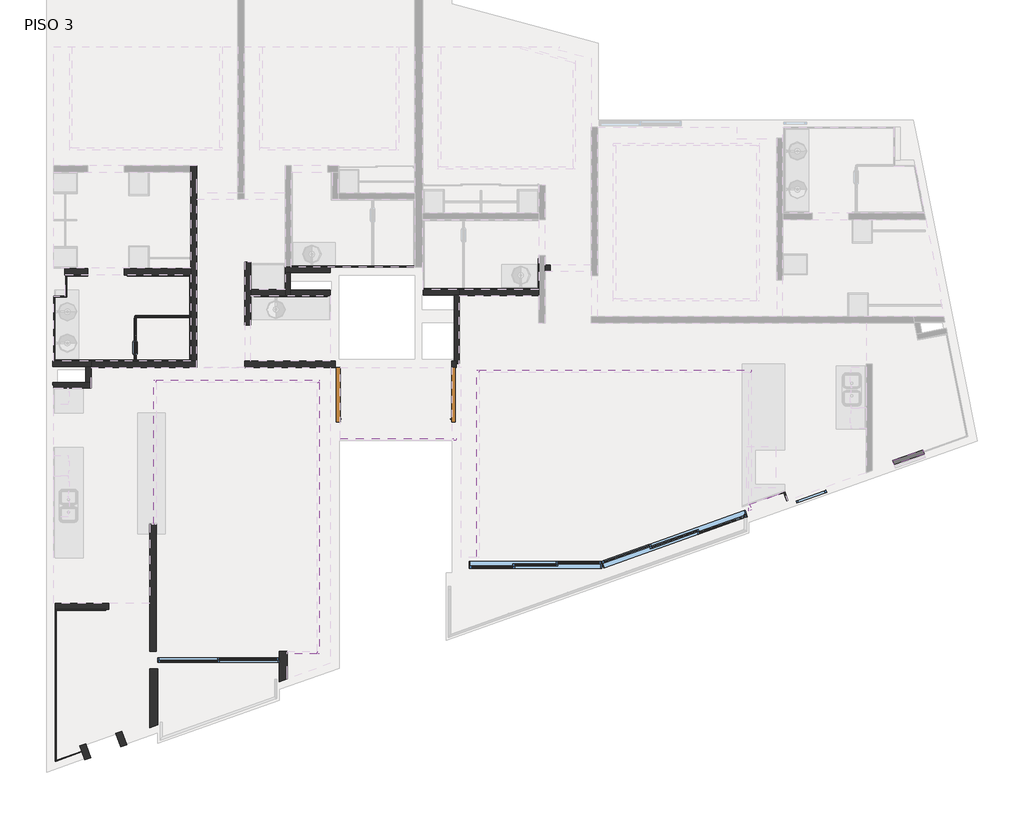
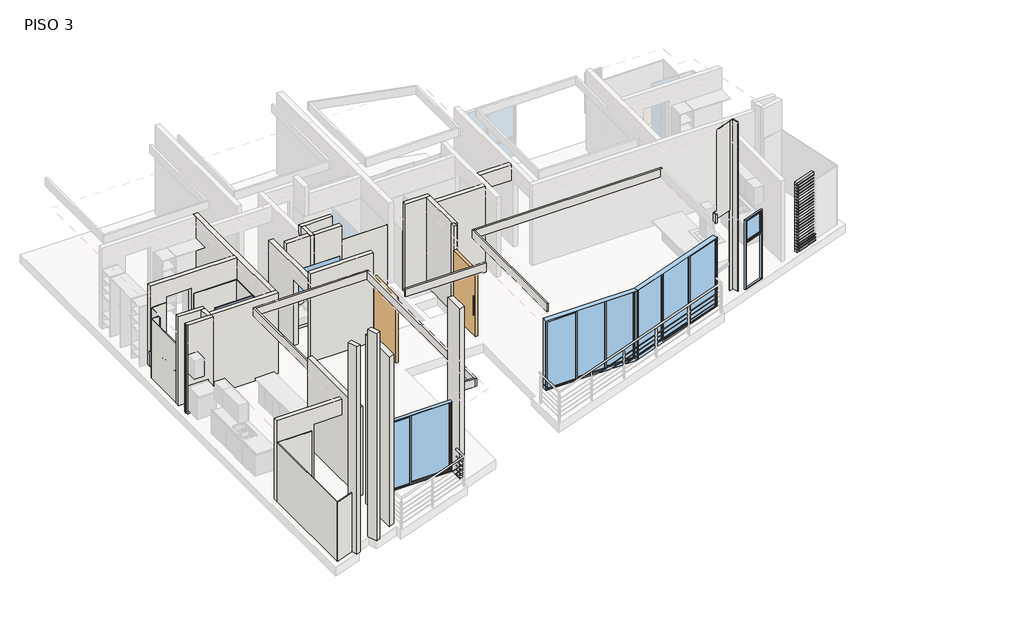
# One storey, part 1 of 3: 48 walls, 24 plates, 7 windows, 3 members, 2 doors.
"""IFC4 building model written with IfcOpenShell, lengths in millimetres."""

from ifc_helpers import new_model, si_unit, frame, origin, place, context, project, spatial, polyline, outline, extrude, faceted_brep, transform, mapped, element, save
from components import door_120_x_220_cm_1a80d65d, door_120_x_220_cm_c73bc2d5, montante_rectangular_montante_rectangular_1_5x5_1b1c74e0, plate_91745229, window_25a9a49d, window_76b8c877, window_1067b7f7, window_0b8e7a57, window_84fe70d5, window_a27440a6, window_0328c900

model = new_model("IFC4")

# Units and contexts
model_context = context("Model", 3, world=origin())
ifc_project = project(units=[si_unit("LENGTHUNIT", "METRE", prefix="MILLI")], contexts=[model_context])

# Site, building, storey
site = spatial("IfcSite", under=ifc_project)
building = spatial("IfcBuilding", under=site)
storey = spatial("IfcBuildingStorey", under=building, Name="PISO 3", Elevation=9000.0)

# Doors
placement = place(None, origin())
door_120_x_220_cm_shape = door_120_x_220_cm_1a80d65d(model_context)
element("IfcDoor", 1, ObjectType="PUERTA ACCESO_PIVOT : 120 x 220 cm", at=placement, inside=storey, context=model_context, shape_type="MappedRepresentation", body=[
    mapped(door_120_x_220_cm_shape, transform((40339.5059119, 28707.1436004, 9000.0), x_axis=(0.0, 1.0, 0.0), y_axis=(-1.0, 0.0, 0.0), z_axis=(0.0, 0.0, 1.0))),
])
door_120_x_220_cm_2_shape = door_120_x_220_cm_c73bc2d5(model_context)
element("IfcDoor", 2, ObjectType="PUERTA ACCESO_PIVOT : 120 x 220 cm", at=placement, inside=storey, context=model_context, shape_type="MappedRepresentation", body=[
    mapped(door_120_x_220_cm_2_shape, transform((43004.5059119, 28707.1436004, 9000.0), x_axis=(0.0, 1.0, 0.0), y_axis=(-1.0, 0.0, 0.0), z_axis=(0.0, 0.0, 1.0))),
])

# Members
montante_rectangular_montante_rectangular_1_5x5_shape = montante_rectangular_montante_rectangular_1_5x5_1b1c74e0(model_context)
element("IfcMember", 3, ObjectType="Montante rectangular : Montante rectangular - 1.5x5", at=placement, inside=storey, context=model_context, shape_type="MappedRepresentation", body=[
    mapped(montante_rectangular_montante_rectangular_1_5x5_shape, transform((53319.7231991, 27770.5085935, 9091.0416667), x_axis=(0.0, 0.0, 1.0), y_axis=(0.3356769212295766, -0.9419771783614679, 0.0), z_axis=(0.9419771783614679, 0.3356769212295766, 0.0))),
])
element("IfcMember", 4, ObjectType="Montante rectangular : Montante rectangular - 1.5x5", at=placement, inside=storey, context=model_context, shape_type="MappedRepresentation", body=[
    mapped(montante_rectangular_montante_rectangular_1_5x5_shape, transform((53319.7231991, 27770.5085935, 9189.5833333), x_axis=(0.0, 0.0, 1.0), y_axis=(0.3356769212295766, -0.9419771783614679, 0.0), z_axis=(0.9419771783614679, 0.3356769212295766, 0.0))),
])
element("IfcMember", 5, ObjectType="Montante rectangular : Montante rectangular - 1.5x5", at=placement, inside=storey, context=model_context, shape_type="MappedRepresentation", body=[
    mapped(montante_rectangular_montante_rectangular_1_5x5_shape, transform((53319.7231991, 27770.5085935, 9288.125), x_axis=(0.0, 0.0, 1.0), y_axis=(0.3356769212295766, -0.9419771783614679, 0.0), z_axis=(0.9419771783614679, 0.3356769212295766, 0.0))),
])

# Plates
plate_shape = plate_91745229(model_context)
element("IfcPlate", 6, ObjectType="Panel del sistema vacío : Vacío", at=placement, inside=storey, context=model_context, shape_type="MappedRepresentation", body=[
    mapped(plate_shape, transform((52990.0311866, 27653.021671, 9000.0), x_axis=(0.9419771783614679, 0.3356769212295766, 0.0), y_axis=(-0.3356769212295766, 0.9419771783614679, 0.0), z_axis=(0.0, 0.0, 1.0))),
])
element("IfcPlate", 7, ObjectType="Panel del sistema vacío : Vacío", at=placement, inside=storey, context=model_context, shape_type="MappedRepresentation", body=[
    mapped(plate_shape, transform((52990.0311866, 27653.021671, 9098.5416667), x_axis=(0.9419771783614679, 0.3356769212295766, 0.0), y_axis=(-0.3356769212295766, 0.9419771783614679, 0.0), z_axis=(0.0, 0.0, 1.0))),
])
element("IfcPlate", 8, ObjectType="Panel del sistema vacío : Vacío", at=placement, inside=storey, context=model_context, shape_type="MappedRepresentation", body=[
    mapped(plate_shape, transform((52990.0311866, 27653.021671, 9197.0833333), x_axis=(0.9419771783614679, 0.3356769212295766, 0.0), y_axis=(-0.3356769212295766, 0.9419771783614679, 0.0), z_axis=(0.0, 0.0, 1.0))),
])
element("IfcPlate", 9, ObjectType="Panel del sistema vacío : Vacío", at=placement, inside=storey, context=model_context, shape_type="MappedRepresentation", body=[
    mapped(plate_shape, transform((52990.0311866, 27653.021671, 9295.625), x_axis=(0.9419771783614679, 0.3356769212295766, 0.0), y_axis=(-0.3356769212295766, 0.9419771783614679, 0.0), z_axis=(0.0, 0.0, 1.0))),
])
element("IfcPlate", 10, ObjectType="Panel del sistema vacío : Vacío", at=placement, inside=storey, context=model_context, shape_type="MappedRepresentation", body=[
    mapped(plate_shape, transform((52990.0311866, 27653.021671, 9394.1666667), x_axis=(0.9419771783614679, 0.3356769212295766, 0.0), y_axis=(-0.3356769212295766, 0.9419771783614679, 0.0), z_axis=(0.0, 0.0, 1.0))),
])
element("IfcPlate", 11, ObjectType="Panel del sistema vacío : Vacío", at=placement, inside=storey, context=model_context, shape_type="MappedRepresentation", body=[
    mapped(plate_shape, transform((52990.0311866, 27653.021671, 9492.7083333), x_axis=(0.9419771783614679, 0.3356769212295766, 0.0), y_axis=(-0.3356769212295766, 0.9419771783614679, 0.0), z_axis=(0.0, 0.0, 1.0))),
])
element("IfcPlate", 12, ObjectType="Panel del sistema vacío : Vacío", at=placement, inside=storey, context=model_context, shape_type="MappedRepresentation", body=[
    mapped(plate_shape, transform((52990.0311866, 27653.021671, 9591.25), x_axis=(0.9419771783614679, 0.3356769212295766, 0.0), y_axis=(-0.3356769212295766, 0.9419771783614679, 0.0), z_axis=(0.0, 0.0, 1.0))),
])
element("IfcPlate", 13, ObjectType="Panel del sistema vacío : Vacío", at=placement, inside=storey, context=model_context, shape_type="MappedRepresentation", body=[
    mapped(plate_shape, transform((52990.0311866, 27653.021671, 9689.7916667), x_axis=(0.9419771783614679, 0.3356769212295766, 0.0), y_axis=(-0.3356769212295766, 0.9419771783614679, 0.0), z_axis=(0.0, 0.0, 1.0))),
])
element("IfcPlate", 14, ObjectType="Panel del sistema vacío : Vacío", at=placement, inside=storey, context=model_context, shape_type="MappedRepresentation", body=[
    mapped(plate_shape, transform((52990.0311866, 27653.021671, 9788.3333333), x_axis=(0.9419771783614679, 0.3356769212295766, 0.0), y_axis=(-0.3356769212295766, 0.9419771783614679, 0.0), z_axis=(0.0, 0.0, 1.0))),
])
element("IfcPlate", 15, ObjectType="Panel del sistema vacío : Vacío", at=placement, inside=storey, context=model_context, shape_type="MappedRepresentation", body=[
    mapped(plate_shape, transform((52990.0311866, 27653.021671, 9886.875), x_axis=(0.9419771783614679, 0.3356769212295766, 0.0), y_axis=(-0.3356769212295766, 0.9419771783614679, 0.0), z_axis=(0.0, 0.0, 1.0))),
])
element("IfcPlate", 16, ObjectType="Panel del sistema vacío : Vacío", at=placement, inside=storey, context=model_context, shape_type="MappedRepresentation", body=[
    mapped(plate_shape, transform((52990.0311866, 27653.021671, 9985.4166667), x_axis=(0.9419771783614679, 0.3356769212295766, 0.0), y_axis=(-0.3356769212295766, 0.9419771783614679, 0.0), z_axis=(0.0, 0.0, 1.0))),
])
element("IfcPlate", 17, ObjectType="Panel del sistema vacío : Vacío", at=placement, inside=storey, context=model_context, shape_type="MappedRepresentation", body=[
    mapped(plate_shape, transform((52990.0311866, 27653.021671, 10083.9583333), x_axis=(0.9419771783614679, 0.3356769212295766, 0.0), y_axis=(-0.3356769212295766, 0.9419771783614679, 0.0), z_axis=(0.0, 0.0, 1.0))),
])
element("IfcPlate", 18, ObjectType="Panel del sistema vacío : Vacío", at=placement, inside=storey, context=model_context, shape_type="MappedRepresentation", body=[
    mapped(plate_shape, transform((52990.0311866, 27653.021671, 10182.5), x_axis=(0.9419771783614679, 0.3356769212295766, 0.0), y_axis=(-0.3356769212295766, 0.9419771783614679, 0.0), z_axis=(0.0, 0.0, 1.0))),
])
element("IfcPlate", 19, ObjectType="Panel del sistema vacío : Vacío", at=placement, inside=storey, context=model_context, shape_type="MappedRepresentation", body=[
    mapped(plate_shape, transform((52990.0311866, 27653.021671, 10281.0416667), x_axis=(0.9419771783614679, 0.3356769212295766, 0.0), y_axis=(-0.3356769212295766, 0.9419771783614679, 0.0), z_axis=(0.0, 0.0, 1.0))),
])
element("IfcPlate", 20, ObjectType="Panel del sistema vacío : Vacío", at=placement, inside=storey, context=model_context, shape_type="MappedRepresentation", body=[
    mapped(plate_shape, transform((52990.0311866, 27653.021671, 10379.5833333), x_axis=(0.9419771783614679, 0.3356769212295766, 0.0), y_axis=(-0.3356769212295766, 0.9419771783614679, 0.0), z_axis=(0.0, 0.0, 1.0))),
])
element("IfcPlate", 21, ObjectType="Panel del sistema vacío : Vacío", at=placement, inside=storey, context=model_context, shape_type="MappedRepresentation", body=[
    mapped(plate_shape, transform((52990.0311866, 27653.021671, 10478.125), x_axis=(0.9419771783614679, 0.3356769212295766, 0.0), y_axis=(-0.3356769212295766, 0.9419771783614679, 0.0), z_axis=(0.0, 0.0, 1.0))),
])
element("IfcPlate", 22, ObjectType="Panel del sistema vacío : Vacío", at=placement, inside=storey, context=model_context, shape_type="MappedRepresentation", body=[
    mapped(plate_shape, transform((52990.0311866, 27653.021671, 10576.6666667), x_axis=(0.9419771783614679, 0.3356769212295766, 0.0), y_axis=(-0.3356769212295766, 0.9419771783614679, 0.0), z_axis=(0.0, 0.0, 1.0))),
])
element("IfcPlate", 23, ObjectType="Panel del sistema vacío : Vacío", at=placement, inside=storey, context=model_context, shape_type="MappedRepresentation", body=[
    mapped(plate_shape, transform((52990.0311866, 27653.021671, 10675.2083333), x_axis=(0.9419771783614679, 0.3356769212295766, 0.0), y_axis=(-0.3356769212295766, 0.9419771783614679, 0.0), z_axis=(0.0, 0.0, 1.0))),
])
element("IfcPlate", 24, ObjectType="Panel del sistema vacío : Vacío", at=placement, inside=storey, context=model_context, shape_type="MappedRepresentation", body=[
    mapped(plate_shape, transform((52990.0311866, 27653.021671, 10773.75), x_axis=(0.9419771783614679, 0.3356769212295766, 0.0), y_axis=(-0.3356769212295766, 0.9419771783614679, 0.0), z_axis=(0.0, 0.0, 1.0))),
])
element("IfcPlate", 25, ObjectType="Panel del sistema vacío : Vacío", at=placement, inside=storey, context=model_context, shape_type="MappedRepresentation", body=[
    mapped(plate_shape, transform((52990.0311866, 27653.021671, 10872.2916667), x_axis=(0.9419771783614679, 0.3356769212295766, 0.0), y_axis=(-0.3356769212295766, 0.9419771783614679, 0.0), z_axis=(0.0, 0.0, 1.0))),
])
element("IfcPlate", 26, ObjectType="Panel del sistema vacío : Vacío", at=placement, inside=storey, context=model_context, shape_type="MappedRepresentation", body=[
    mapped(plate_shape, transform((52990.0311866, 27653.021671, 10970.8333333), x_axis=(0.9419771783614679, 0.3356769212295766, 0.0), y_axis=(-0.3356769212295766, 0.9419771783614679, 0.0), z_axis=(0.0, 0.0, 1.0))),
])
element("IfcPlate", 27, ObjectType="Panel del sistema vacío : Vacío", at=placement, inside=storey, context=model_context, shape_type="MappedRepresentation", body=[
    mapped(plate_shape, transform((52990.0311866, 27653.021671, 11069.375), x_axis=(0.9419771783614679, 0.3356769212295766, 0.0), y_axis=(-0.3356769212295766, 0.9419771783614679, 0.0), z_axis=(0.0, 0.0, 1.0))),
])
element("IfcPlate", 28, ObjectType="Panel del sistema vacío : Vacío", at=placement, inside=storey, context=model_context, shape_type="MappedRepresentation", body=[
    mapped(plate_shape, transform((52990.0311866, 27653.021671, 11167.9166667), x_axis=(0.9419771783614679, 0.3356769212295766, 0.0), y_axis=(-0.3356769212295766, 0.9419771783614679, 0.0), z_axis=(0.0, 0.0, 1.0))),
])
element("IfcPlate", 29, ObjectType="Panel del sistema vacío : Vacío", at=placement, inside=storey, context=model_context, shape_type="MappedRepresentation", body=[
    mapped(plate_shape, transform((52990.0311866, 27653.021671, 11266.4583333), x_axis=(0.9419771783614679, 0.3356769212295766, 0.0), y_axis=(-0.3356769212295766, 0.9419771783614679, 0.0), z_axis=(0.0, 0.0, 1.0))),
])

# Walls
element("IfcWall", 30, ObjectType="Muro block 12cms_int_ductos", at=placement, inside=storey, context=model_context, shape_type="Brep", body=[
    faceted_brep([(39354.5300226, 31304.0104769, 9000.0), (39354.5300226, 31424.0104769, 9000.0), (39354.5300226, 31813.9733508, 9000.0), (39354.5300226, 31813.9733508, 12000.0), (39354.5300226, 31424.0104769, 12000.0), (39354.5300226, 31304.0104769, 12000.0), (39234.5300226, 31304.0104769, 9000.0), (39234.5300226, 31304.0104769, 12000.0), (39234.5300226, 31444.0104769, 12000.0), (39234.5300226, 31813.9733508, 12000.0), (39234.5300226, 31813.9733508, 9000.0), (39234.5300226, 31444.0104769, 9000.0)], [[[0, 1, 2, 3, 4, 5]], [[6, 7, 8, 9, 10, 11]], [[2, 1, 0, 6, 11, 10]], [[5, 4, 3, 9, 8, 7]], [[0, 5, 7, 6]], [[3, 2, 10, 9]]]),
])
element("IfcWall", 31, ObjectType="Muro block 12cms_int_ductos", at=placement, inside=storey, context=model_context, shape_type="Brep", body=[
    faceted_brep([(42279.5059119, 31324.0104755, 9000.0), (42954.5059119, 31324.0104755, 9000.0), (43074.5059119, 31324.0104755, 9000.0), (43074.5059119, 31324.0104755, 12000.0), (42954.5059119, 31324.0104755, 12000.0), (42279.5059119, 31324.0104755, 12000.0), (42279.5059119, 31444.0104755, 9000.0), (42279.5059119, 31444.0104755, 12000.0), (43074.5059119, 31444.0104755, 12000.0), (43074.5059119, 31444.0104755, 9000.0)], [[[0, 1, 2, 3, 4, 5]], [[6, 7, 8, 9]], [[2, 1, 0, 6, 9]], [[5, 4, 3, 8, 7]], [[3, 2, 9, 8]], [[0, 5, 7, 6]]]),
])
element("IfcWall", 32, ObjectType="Muro block 12cms_int_ductos", at=placement, inside=storey, context=model_context, shape_type="Brep", body=[
    faceted_brep([(43074.5059119, 29814.010184, 9000.0), (43074.5059119, 31304.0104755, 9000.0), (43074.5059119, 31324.0104755, 9000.0), (43074.5059119, 31324.0104755, 12000.0), (43074.5059119, 29814.010184, 12000.0), (42954.5059119, 29814.010184, 9000.0), (42954.5059119, 29814.010184, 12000.0), (42954.5059119, 31324.0104755, 12000.0), (42954.5059119, 31324.0104755, 9000.0)], [[[0, 1, 2, 3, 4]], [[5, 6, 7, 8]], [[2, 1, 0, 5, 8]], [[4, 3, 7, 6]], [[0, 4, 6, 5]], [[3, 2, 8, 7]]]),
])
element("IfcWall", 33, ObjectType="Muro block 12cms_int_ductos", at=placement, inside=storey, context=model_context, shape_type="Brep", body=[
    faceted_brep([(39234.5300226, 31813.9733508, 9000.0), (39354.5300226, 31813.9733508, 9000.0), (40234.5059119, 31813.9733508, 9000.0), (40234.5059119, 31813.9733508, 12000.0), (39354.5300226, 31813.9733508, 12000.0), (39234.5300226, 31813.9733508, 12000.0), (39234.5300226, 31933.9733508, 9000.0), (39234.5300226, 31933.9733508, 11720.0), (39234.5300226, 31933.9733508, 12000.0), (40234.5059119, 31933.9733508, 12000.0), (40234.5059119, 31933.9733508, 9000.0), (39374.5300226, 31933.9733508, 9000.0)], [[[0, 1, 2, 3, 4, 5]], [[6, 7, 8, 9, 10, 11]], [[2, 1, 0, 6, 11, 10]], [[5, 4, 3, 9, 8]], [[0, 5, 8, 7, 6]], [[3, 2, 10, 9]]]),
])
element("IfcWall", 34, ObjectType="Muro block 12cms_int_ductos", at=placement, inside=storey, context=model_context, shape_type="SweptSolid", body=[
    extrude(outline(polyline([(40234.5059119, 31304.0104769), (39354.5300226, 31304.0104769), (39354.5300226, 31424.0104769), (40234.5059119, 31424.0104769), (40234.5059119, 31304.0104769)])), frame((0.0, 0.0, 9000.0), z_axis=(0.0, 0.0, 1.0), x_axis=(1.0, 0.0, 0.0)), (0.0, 0.0, 1.0), 3000.0),
])
element("IfcWall", 35, ObjectType="Muro block 12cms_int_ductos", at=placement, inside=storey, context=model_context, shape_type="Brep", body=[
    faceted_brep([(34123.8589874, 29744.010184, 12000.0), (34843.8589874, 29744.010184, 12000.0), (34963.8589874, 29744.010184, 12000.0), (34963.8589874, 29864.010184, 12000.0), (34123.8589874, 29864.010184, 12000.0), (34123.8589874, 29744.010184, 9000.0), (34843.8589874, 29744.010184, 9000.0), (34963.8589874, 29744.010184, 9000.0), (34123.8589874, 29864.010184, 9000.0), (34963.8589874, 29864.010184, 9000.0), (34143.8589874, 29864.010184, 9000.0), (34123.8589874, 29804.010184, 9000.0)], [[[0, 1, 2, 3, 4]], [[5, 6, 7, 2, 1, 0]], [[8, 4, 3, 9, 10]], [[7, 6, 5, 11, 8, 10, 9]], [[2, 7, 9, 3]], [[5, 0, 4, 8, 11]]]),
])
element("IfcWall", 36, ObjectType="Muro block 12cms_int_ductos", at=placement, inside=storey, context=model_context, shape_type="Brep", body=[
    faceted_brep([(34143.8589874, 29274.010184, 12000.0), (34963.8589874, 29274.010184, 12000.0), (34963.8589874, 29394.010184, 12000.0), (34843.8589874, 29394.010184, 12000.0), (34123.8589874, 29394.010184, 12000.0), (34123.8589874, 29334.010184, 12000.0), (34143.8589874, 29334.010184, 12000.0), (34143.8589874, 29274.010184, 9000.0), (34963.8589874, 29274.010184, 9000.0), (34123.8589874, 29394.010184, 9000.0), (34963.8589874, 29394.010184, 9000.0), (34843.8589874, 29394.010184, 9000.0), (34143.8589874, 29334.010184, 9000.0), (34123.8589874, 29334.010184, 9000.0)], [[[0, 1, 2, 3, 4, 5, 6]], [[7, 8, 1, 0]], [[9, 4, 3, 2, 10, 11]], [[8, 7, 12, 13, 9, 11, 10]], [[7, 0, 6, 12]], [[6, 5, 13, 12]], [[5, 4, 9, 13]], [[1, 8, 10, 2]]]),
])
element("IfcWall", 37, ObjectType="Muro block 12cms_int_ductos", at=placement, inside=storey, context=model_context, shape_type="Brep", body=[
    faceted_brep([(34963.8589874, 29394.010184, 9000.0), (34963.8589874, 29724.010184, 9000.0), (34963.8589874, 29744.010184, 9000.0), (34963.8589874, 29744.010184, 12000.0), (34963.8589874, 29724.010184, 12000.0), (34963.8589874, 29394.010184, 12000.0), (34843.8589874, 29394.010184, 9000.0), (34843.8589874, 29394.010184, 12000.0), (34843.8589874, 29744.010184, 12000.0), (34843.8589874, 29744.010184, 9000.0)], [[[0, 1, 2, 3, 4, 5]], [[6, 7, 8, 9]], [[2, 1, 0, 6, 9]], [[5, 4, 3, 8, 7]], [[3, 2, 9, 8]], [[0, 5, 7, 6]]]),
])
element("IfcWall", 38, ObjectType="Plafond tablaroca", at=placement, inside=storey, context=model_context, shape_type="Brep", body=[
    faceted_brep([(43509.5059119, 29663.9733508, 11720.0), (43509.5059119, 29611.2733508, 11720.0), (43509.5059119, 25545.2541962, 11720.0), (43509.5059119, 25545.2541962, 11452.7), (43509.5059119, 29611.2733508, 11452.7), (43509.5059119, 29663.9733508, 11452.7), (43456.8059119, 25545.2541962, 11720.0), (43456.8059119, 29663.9733508, 11720.0), (43456.8059119, 29663.9733508, 11452.7), (43456.8059119, 25545.2541962, 11452.7)], [[[0, 1, 2, 3, 4, 5]], [[6, 7, 8, 9]], [[2, 1, 0, 7, 6]], [[2, 6, 9, 3]], [[7, 0, 5, 8]], [[5, 4, 3, 9, 8]]]),
])
element("IfcWall", 39, ObjectType="Plafond tablaroca", at=placement, inside=storey, context=model_context, shape_type="Brep", body=[
    faceted_brep([(49497.2059119, 29611.2733508, 11720.0), (49444.5059119, 29611.2733508, 11720.0), (43509.5059119, 29611.2733508, 11720.0), (43509.5059119, 29611.2733508, 11452.7), (49444.5059119, 29611.2733508, 11452.7), (49497.2059119, 29611.2733508, 11452.7), (43509.5059119, 29663.9733508, 11720.0), (49497.2059119, 29663.9733508, 11720.0), (49497.2059119, 29663.9733508, 11452.7), (43509.5059119, 29663.9733508, 11452.7)], [[[0, 1, 2, 3, 4, 5]], [[6, 7, 8, 9]], [[2, 1, 0, 7, 6]], [[2, 6, 9, 3]], [[7, 0, 5, 8]], [[5, 4, 3, 9, 8]]]),
])
element("IfcWall", 40, ObjectType="Plafond tablaroca", at=placement, inside=storey, context=model_context, shape_type="SweptSolid", body=[
    extrude(outline(polyline([(11400.0, 43004.5059119), (11720.0, 43004.5059119), (11720.0, 40444.5059119), (11452.7, 40444.5059119), (11452.7, 42899.5059119), (11400.0, 42899.5059119), (11400.0, 43004.5059119)])), frame((0.0, 28111.0432167, 0.0), z_axis=(0.0, 1.0, 0.0), x_axis=(0.0, 0.0, 1.0)), (0.0, 0.0, 1.0), 52.7),
])
element("IfcWall", 41, ObjectType="Plafond tablaroca", at=placement, inside=storey, context=model_context, shape_type="Brep", body=[
    faceted_brep([(36394.5300226, 29446.710184, 11720.0), (36394.5300226, 29394.010184, 11720.0), (36394.5300226, 26269.0176189, 11720.0), (36394.5300226, 26269.0176189, 11452.7), (36394.5300226, 29394.010184, 11452.7), (36394.5300226, 29446.710184, 11452.7), (36341.8300226, 26269.0176189, 11720.0), (36341.8300226, 29446.710184, 11720.0), (36341.8300226, 29446.710184, 11452.7), (36341.8300226, 26269.0176189, 11452.7)], [[[0, 1, 2, 3, 4, 5]], [[6, 7, 8, 9]], [[2, 1, 0, 7, 6]], [[2, 6, 9, 3]], [[7, 0, 5, 8]], [[5, 4, 3, 9, 8]]]),
])
element("IfcWall", 42, ObjectType="Plafond tablaroca", at=placement, inside=storey, context=model_context, shape_type="Brep", body=[
    faceted_brep([(39992.2059119, 29394.010184, 11720.0), (39939.5059119, 29394.010184, 11720.0), (36394.5300226, 29394.010184, 11720.0), (36394.5300226, 29394.010184, 11452.7), (39939.5059119, 29394.010184, 11452.7), (39992.2059119, 29394.010184, 11452.7), (36394.5300226, 29446.710184, 11720.0), (39992.2059119, 29446.710184, 11720.0), (39992.2059119, 29446.710184, 11452.7), (36394.5300226, 29446.710184, 11452.7)], [[[0, 1, 2, 3, 4, 5]], [[6, 7, 8, 9]], [[2, 1, 0, 7, 6]], [[2, 6, 9, 3]], [[7, 0, 5, 8]], [[5, 4, 3, 9, 8]]]),
])
element("IfcWall", 43, ObjectType="Plafond tablaroca", at=placement, inside=storey, context=model_context, shape_type="Brep", body=[
    faceted_brep([(39939.5059119, 23418.2402233, 11720.0), (39939.5059119, 23470.9402233, 11720.0), (39939.5059119, 29394.010184, 11720.0), (39939.5059119, 29394.010184, 11452.7), (39939.5059119, 23470.9402233, 11452.7), (39939.5059119, 23418.2402233, 11452.7), (39992.2059119, 29394.010184, 11720.0), (39992.2059119, 23418.2402233, 11720.0), (39992.2059119, 23418.2402233, 11452.7), (39992.2059119, 29394.010184, 11452.7)], [[[0, 1, 2, 3, 4, 5]], [[6, 7, 8, 9]], [[2, 1, 0, 7, 6]], [[2, 6, 9, 3]], [[7, 0, 5, 8]], [[5, 4, 3, 9, 8]]]),
])
element("IfcWall", 44, ObjectType="Plafond tablaroca", at=placement, inside=storey, context=model_context, shape_type="SweptSolid", body=[
    extrude(outline(polyline([(39284.5057602, 23470.9402233), (39939.5059119, 23470.9402233), (39939.5059119, 23418.2402233), (39284.5057602, 23418.2402233), (39284.5057602, 23470.9402233)])), frame((0.0, 0.0, 11452.7), z_axis=(0.0, 0.0, 1.0), x_axis=(1.0, 0.0, 0.0)), (0.0, 0.0, 1.0), 267.3),
])
element("IfcWall", 45, ObjectType="Cerámica baño", at=placement, inside=storey, context=model_context, shape_type="Brep", body=[
    faceted_brep([(42064.5059119, 31953.9733508, 9000.0), (39394.5300226, 31953.9733508, 9000.0), (39374.5300226, 31953.9733508, 9000.0), (39374.5300226, 31953.9733508, 11000.0), (39394.5300226, 31953.9733508, 11000.0), (42064.5059119, 31953.9733508, 11000.0), (42064.5059119, 31933.9733508, 9000.0), (42064.5059119, 31933.9733508, 11000.0), (39374.5300226, 31933.9733508, 11000.0), (39374.5300226, 31933.9733508, 9000.0)], [[[0, 1, 2, 3, 4, 5]], [[6, 7, 8, 9]], [[2, 1, 0, 6, 9]], [[5, 4, 3, 8, 7]], [[0, 5, 7, 6]], [[3, 2, 9, 8]]]),
])
element("IfcWall", 46, ObjectType="Cerámica baño", at=placement, inside=storey, context=model_context, shape_type="Brep", body=[
    faceted_brep([(44824.5251366, 31464.0104754, 9000.0), (44804.5251366, 31464.0104754, 9000.0), (42299.5059119, 31464.0104754, 9000.0), (42279.5059119, 31464.0104754, 9000.0), (42279.5059119, 31464.0104754, 11000.0), (42299.5059119, 31464.0104754, 11000.0), (44804.5251366, 31464.0104754, 11000.0), (44824.5251366, 31464.0104754, 11000.0), (44824.5251366, 31444.0104754, 9000.0), (44824.5251366, 31444.0104754, 11000.0), (42279.5059119, 31444.0104754, 11000.0), (42279.5059119, 31444.0104754, 9000.0)], [[[0, 1, 2, 3, 4, 5, 6, 7]], [[8, 9, 10, 11]], [[3, 2, 1, 0, 8, 11]], [[7, 6, 5, 4, 10, 9]], [[4, 3, 11, 10]], [[0, 7, 9, 8]]]),
])
element("IfcWall", 47, ObjectType="Cerámica baño", at=placement, inside=storey, context=model_context, shape_type="Brep", body=[
    faceted_brep([(34143.8589874, 29864.010184, 9000.0), (37154.5300226, 29864.010184, 9000.0), (37154.5300226, 29864.010184, 11000.0), (34143.8589874, 29864.010184, 11000.0), (34143.8589874, 29884.010184, 9000.0), (34143.8589874, 29884.010184, 11000.0), (34163.8589874, 29884.010184, 11000.0), (37134.5300226, 29884.010184, 11000.0), (37154.5300226, 29884.010184, 11000.0), (37154.5300226, 29884.010184, 9000.0), (37134.5300226, 29884.010184, 9000.0), (34163.8589874, 29884.010184, 9000.0)], [[[0, 1, 2, 3]], [[4, 5, 6, 7, 8, 9, 10, 11]], [[1, 0, 4, 11, 10, 9]], [[3, 2, 8, 7, 6, 5]], [[2, 1, 9, 8]], [[0, 3, 5, 4]]]),
])
element("IfcWall", 48, ObjectType="Cerámica baño", at=placement, inside=storey, context=model_context, shape_type="Brep", body=[
    faceted_brep([(37154.5300226, 29884.010184, 9000.0), (37154.5300226, 31758.9733508, 9000.0), (37154.5300226, 31758.9733508, 11000.0), (37154.5300226, 29884.010184, 11000.0), (37134.5300226, 29884.010184, 9000.0), (37134.5300226, 29884.010184, 11000.0), (37134.5300226, 31738.9733508, 11000.0), (37134.5300226, 31758.9733508, 11000.0), (37134.5300226, 31758.9733508, 9000.0), (37134.5300226, 31738.9733508, 9000.0)], [[[0, 1, 2, 3]], [[4, 5, 6, 7, 8, 9]], [[1, 0, 4, 9, 8]], [[3, 2, 7, 6, 5]], [[2, 1, 8, 7]], [[0, 3, 5, 4]]]),
])
element("IfcWall", 49, ObjectType="Cerámica baño", at=placement, inside=storey, context=model_context, shape_type="SweptSolid", body=[
    extrude(outline(polyline([(35764.5300226, 31758.9733508), (37134.5300226, 31758.9733508), (37134.5300226, 31738.9733508), (35764.5300226, 31738.9733508), (35764.5300226, 31758.9733508)])), frame((0.0, 0.0, 9000.0), z_axis=(0.0, 0.0, 1.0), x_axis=(1.0, 0.0, 0.0)), (0.0, 0.0, 1.0), 2000.0),
])
element("IfcWall", 50, ObjectType="Cerámica baño", at=placement, inside=storey, context=model_context, shape_type="Brep", body=[
    faceted_brep([(34894.5300226, 31758.9733508, 9000.0), (34403.8589874, 31758.9733508, 9000.0), (34403.8589874, 31758.9733508, 11000.0), (34894.5300226, 31758.9733508, 11000.0), (34894.5300226, 31738.9733508, 9000.0), (34894.5300226, 31738.9733508, 11000.0), (34423.8589874, 31738.9733508, 11000.0), (34403.8589874, 31738.9733508, 11000.0), (34403.8589874, 31738.9733508, 9000.0), (34423.8589874, 31738.9733508, 9000.0)], [[[0, 1, 2, 3]], [[4, 5, 6, 7, 8, 9]], [[1, 0, 4, 9, 8]], [[3, 2, 7, 6, 5]], [[0, 3, 5, 4]], [[2, 1, 8, 7]]]),
])
element("IfcWall", 51, ObjectType="Cerámica baño", at=placement, inside=storey, context=model_context, shape_type="Brep", body=[
    faceted_brep([(34403.8589874, 31738.9733508, 9000.0), (34403.8589874, 31293.9733508, 9000.0), (34403.8589874, 31273.9733508, 9000.0), (34403.8589874, 31273.9733508, 11000.0), (34403.8589874, 31293.9733508, 11000.0), (34403.8589874, 31738.9733508, 11000.0), (34423.8589874, 31738.9733508, 9000.0), (34423.8589874, 31738.9733508, 11000.0), (34423.8589874, 31273.9733508, 11000.0), (34423.8589874, 31273.9733508, 9000.0)], [[[0, 1, 2, 3, 4, 5]], [[6, 7, 8, 9]], [[2, 1, 0, 6, 9]], [[5, 4, 3, 8, 7]], [[3, 2, 9, 8]], [[0, 5, 7, 6]]]),
])
element("IfcWall", 52, ObjectType="Cerámica baño", at=placement, inside=storey, context=model_context, shape_type="Brep", body=[
    faceted_brep([(34403.8589874, 31293.9733508, 9000.0), (34143.8589874, 31293.9733508, 9000.0), (34143.8589874, 31293.9733508, 11000.0), (34403.8589874, 31293.9733508, 11000.0), (34403.8589874, 31273.9733508, 9000.0), (34403.8589874, 31273.9733508, 11000.0), (34163.8589874, 31273.9733508, 11000.0), (34143.8589874, 31273.9733508, 11000.0), (34143.8589874, 31273.9733508, 9000.0), (34163.8589874, 31273.9733508, 9000.0)], [[[0, 1, 2, 3]], [[4, 5, 6, 7, 8, 9]], [[1, 0, 4, 9, 8]], [[3, 2, 7, 6, 5]], [[0, 3, 5, 4]], [[2, 1, 8, 7]]]),
])
element("IfcWall", 53, ObjectType="Cerámica baño", at=placement, inside=storey, context=model_context, shape_type="SweptSolid", body=[
    extrude(outline(polyline([(44824.5251366, 32124.0104754), (44824.5251366, 31464.0104754), (44804.5251366, 31464.0104754), (44804.5251366, 32124.0104754), (44824.5251366, 32124.0104754)])), frame((0.0, 0.0, 9000.0), z_axis=(0.0, 0.0, 1.0), x_axis=(1.0, 0.0, 0.0)), (0.0, 0.0, 1.0), 2000.0),
])
element("IfcWall", 54, ObjectType="Cerámica baño", at=placement, inside=storey, context=model_context, shape_type="SweptSolid", body=[
    extrude(outline(polyline([(34762.5272081, 21253.1294489), (34194.5300226, 21050.7216296), (34194.5300226, 21071.9535665), (34755.8136696, 21271.9689925), (34762.5272081, 21253.1294489)])), frame((0.0, 0.0, 9000.0), z_axis=(0.0, 0.0, 1.0), x_axis=(1.0, 0.0, 0.0)), (0.0, 0.0, 1.0), 2000.0),
])
element("IfcWall", 55, ObjectType="Cerámica baño", at=placement, inside=storey, context=model_context, shape_type="SweptSolid", body=[
    extrude(outline(polyline([(34163.8589874, 31273.9733508), (34163.8589874, 29884.010184), (34143.8589874, 29884.010184), (34143.8589874, 31273.9733508), (34163.8589874, 31273.9733508)])), frame((0.0, 0.0, 9000.0), z_axis=(0.0, 0.0, 1.0), x_axis=(1.0, 0.0, 0.0)), (0.0, 0.0, 1.0), 2000.0),
])
element("IfcWall", 56, ObjectType="Cerámica baño", at=placement, inside=storey, context=model_context, shape_type="Brep", body=[
    faceted_brep([(34174.5300226, 24392.4819685, 9000.0), (34174.5300226, 21043.5945584, 9000.0), (34174.5300226, 21043.5945584, 11000.0), (34174.5300226, 24392.4819685, 11000.0), (34194.5300226, 24392.4819685, 9000.0), (34194.5300226, 24392.4819685, 11000.0), (34194.5300226, 24372.4819685, 11000.0), (34194.5300226, 21071.9535665, 11000.0), (34194.5300226, 21050.7216296, 11000.0), (34194.5300226, 21050.7216296, 9000.0), (34194.5300226, 21071.9535665, 9000.0), (34194.5300226, 24372.4819685, 9000.0)], [[[0, 1, 2, 3]], [[4, 5, 6, 7, 8, 9, 10, 11]], [[1, 0, 4, 11, 10, 9]], [[3, 2, 8, 7, 6, 5]], [[0, 3, 5, 4]], [[2, 1, 9, 8]]]),
])
element("IfcWall", 57, ObjectType="Cerámica baño", at=placement, inside=storey, context=model_context, shape_type="SweptSolid", body=[
    extrude(outline(polyline([(34194.5300226, 24392.4819685), (35284.5300226, 24392.4819685), (35284.5300226, 24372.4819685), (34194.5300226, 24372.4819685), (34194.5300226, 24392.4819685)])), frame((0.0, 0.0, 9000.0), z_axis=(0.0, 0.0, 1.0), x_axis=(1.0, 0.0, 0.0)), (0.0, 0.0, 1.0), 2000.0),
])
element("IfcWall", 58, ObjectType="Muro block 14cms_int", at=placement, inside=storey, context=model_context, shape_type="SweptSolid", body=[
    extrude(outline(polyline([(9000.0, 35694.5300226), (9000.0, 37154.5300226), (11720.0, 37154.5300226), (11720.0, 34383.8589874), (9000.0, 34383.8589874), (9000.0, 34894.5300226), (11200.0, 34894.5300226), (11200.0, 35694.5300226), (9000.0, 35694.5300226)])), frame((0.0, 31758.9733508, 0.0), z_axis=(0.0, 1.0, 0.0), x_axis=(0.0, 0.0, 1.0)), (0.0, 0.0, 1.0), 140.0),
])
element("IfcWall", 59, ObjectType="Muro block 14cms_int", at=placement, inside=storey, context=model_context, shape_type="Brep", body=[
    faceted_brep([(40339.5059119, 29864.010184, 9000.0), (40254.5059119, 29864.010184, 9000.0), (40234.5059119, 29864.010184, 9000.0), (38344.5059119, 29864.010184, 9000.0), (38344.5059119, 29864.010184, 11200.0), (38344.5059119, 29864.010184, 12000.0), (38484.5059119, 29864.010184, 12000.0), (40244.5059119, 29864.010184, 12000.0), (40254.5059119, 29864.010184, 12000.0), (40339.5059119, 29864.010184, 12000.0), (40339.5059119, 29724.010184, 9000.0), (40339.5059119, 29724.010184, 12000.0), (38344.5059119, 29724.010184, 12000.0), (38344.5059119, 29724.010184, 9000.0)], [[[0, 1, 2, 3, 4, 5, 6, 7, 8, 9]], [[10, 11, 12, 13]], [[3, 2, 1, 0, 10, 13]], [[9, 8, 7, 6, 5, 12, 11]], [[0, 9, 11, 10]], [[5, 4, 3, 13, 12]]]),
])
element("IfcWall", 60, ObjectType="Muro block 14cms_int", at=placement, inside=storey, context=model_context, shape_type="Brep", body=[
    faceted_brep([(38484.5059119, 30664.010184, 9000.0), (38484.5059119, 31304.0104769, 9000.0), (38484.5059119, 31444.0104769, 9000.0), (38484.5059119, 32044.0104769, 9000.0), (38484.5059119, 32044.0104769, 11720.0), (38484.5059119, 29864.010184, 11720.0), (38484.5059119, 29864.010184, 11200.0), (38484.5059119, 30664.010184, 11200.0), (38344.5059119, 32044.0104769, 9000.0), (38344.5059119, 30664.010184, 9000.0), (38344.5059119, 30664.010184, 11200.0), (38344.5059119, 29864.010184, 11200.0), (38344.5059119, 29864.010184, 11720.0), (38344.5059119, 32044.0104769, 11720.0)], [[[0, 1, 2, 3, 4, 5, 6, 7]], [[8, 9, 10, 11, 12, 13]], [[8, 3, 2, 1, 0, 9]], [[3, 8, 13, 4]], [[11, 6, 5, 12]], [[10, 7, 6, 11]], [[7, 10, 9, 0]], [[5, 4, 13, 12]]]),
])
element("IfcWall", 61, ObjectType="Muro block 14cms_int", at=placement, inside=storey, context=model_context, shape_type="SweptSolid", body=[
    extrude(outline(polyline([(39234.5300226, 31304.0104769), (38484.5059119, 31304.0104769), (38484.5059119, 31444.0104769), (39234.5300226, 31444.0104769), (39234.5300226, 31304.0104769)])), frame((0.0, 0.0, 9000.0), z_axis=(0.0, 0.0, 1.0), x_axis=(1.0, 0.0, 0.0)), (0.0, 0.0, 1.0), 3000.0),
])
element("IfcWall", 62, ObjectType="Muro block 14cms_int", at=placement, inside=storey, context=model_context, shape_type="SweptSolid", body=[
    extrude(outline(polyline([(9000.0, 44964.5251366), (9000.0, 45074.5059119), (11200.0, 45074.5059119), (11200.0, 45974.5059119), (11720.0, 45974.5059119), (11720.0, 44964.5251366), (9000.0, 44964.5251366)])), frame((0.0, 31844.0100923, 0.0), z_axis=(0.0, 1.0, 0.0), x_axis=(0.0, 0.0, 1.0)), (0.0, 0.0, 1.0), 140.0),
])
element("IfcWall", 63, ObjectType="Muro block 14cms_int", at=placement, inside=storey, context=model_context, shape_type="Brep", body=[
    faceted_brep([(37294.5300226, 29864.010184, 9000.0), (37294.5300226, 34168.9785701, 9000.0), (37294.5300226, 34168.9785701, 11720.0), (37294.5300226, 29864.010184, 11720.0), (37154.5300226, 34168.9785701, 9000.0), (37154.5300226, 34028.9785701, 9000.0), (37154.5300226, 31898.9733508, 9000.0), (37154.5300226, 31758.9733508, 9000.0), (37154.5300226, 29864.010184, 9000.0), (37154.5300226, 29864.010184, 11720.0), (37154.5300226, 31758.9733508, 11720.0), (37154.5300226, 31898.9733508, 11720.0), (37154.5300226, 34168.9785701, 11720.0)], [[[0, 1, 2, 3]], [[4, 5, 6, 7, 8, 9, 10, 11, 12]], [[1, 0, 8, 7, 6, 5, 4]], [[1, 4, 12, 2]], [[8, 0, 3, 9]], [[3, 2, 12, 11, 10, 9]]]),
])
element("IfcWall", 64, ObjectType="Muro block 14cms_int", at=placement, inside=storey, context=model_context, shape_type="SweptSolid", body=[
    extrude(outline(polyline([(9000.0, 34173.8589874), (9000.0, 35354.5300226), (11200.0, 35354.5300226), (11200.0, 36254.5300226), (11720.0, 36254.5300226), (11720.0, 34173.8589874), (9000.0, 34173.8589874)])), frame((0.0, 24392.4819685, 0.0), z_axis=(0.0, 1.0, 0.0), x_axis=(0.0, 0.0, 1.0)), (0.0, 0.0, 1.0), 140.0),
])
element("IfcWall", 65, ObjectType="Muro block 14cms_int", at=placement, inside=storey, context=model_context, shape_type="Brep", body=[
    faceted_brep([(36394.5300226, 23470.9402233, 9000.0), (36394.5300226, 26269.0176189, 9000.0), (36394.5300226, 26269.0176189, 12000.0), (36394.5300226, 23470.9402233, 12000.0), (36254.5300226, 23470.9402233, 9000.0), (36254.5300226, 23470.9402233, 12000.0), (36254.5300226, 24392.4819685, 12000.0), (36254.5300226, 24532.4819685, 12000.0), (36254.5300226, 26269.0176189, 12000.0), (36254.5300226, 26269.0176189, 9000.0)], [[[0, 1, 2, 3]], [[4, 5, 6, 7, 8, 9]], [[1, 0, 4, 9]], [[3, 2, 8, 7, 6, 5]], [[0, 3, 5, 4]], [[1, 9, 8, 2]]]),
])
element("IfcWall", 66, ObjectType="Muro block 14cms_int", at=placement, inside=storey, context=model_context, shape_type="Brep", body=[
    faceted_brep([(34963.8589874, 29724.010184, 9000.0), (37294.5300226, 29724.010184, 9000.0), (37294.5300226, 29724.010184, 11720.0), (34963.8589874, 29724.010184, 11720.0), (37294.5300226, 29864.010184, 9000.0), (37154.5300226, 29864.010184, 9000.0), (34963.8589874, 29864.010184, 9000.0), (34963.8589874, 29864.010184, 11720.0), (37154.5300226, 29864.010184, 11720.0), (37294.5300226, 29864.010184, 11720.0), (34963.8589874, 29744.010184, 9000.0)], [[[0, 1, 2, 3]], [[4, 5, 6, 7, 8, 9]], [[1, 0, 10, 6, 5, 4]], [[1, 4, 9, 2]], [[6, 10, 0, 3, 7]], [[3, 2, 9, 8, 7]]]),
])
element("IfcWall", 67, ObjectType="Muro block 14cms_int", at=placement, inside=storey, context=model_context, shape_type="Brep", body=[
    faceted_brep([(43074.5059119, 31304.0104755, 9000.0), (44824.5251366, 31304.0104755, 9000.0), (44824.5251366, 31304.0104755, 11720.0), (43074.5059119, 31304.0104755, 11720.0), (44824.5251366, 31444.0104755, 9000.0), (43074.5059119, 31444.0104755, 9000.0), (43074.5059119, 31444.0104755, 11720.0), (44824.5251366, 31444.0104755, 11720.0), (43074.5059119, 31324.0104755, 9000.0)], [[[0, 1, 2, 3]], [[4, 5, 6, 7]], [[1, 0, 8, 5, 4]], [[1, 4, 7, 2]], [[5, 8, 0, 3, 6]], [[3, 2, 7, 6]]]),
])
element("IfcWall", 68, ObjectType="Muro block 14cms_int", at=placement, inside=storey, context=model_context, shape_type="Brep", body=[
    faceted_brep([(34954.8258589, 21130.5683258, 9000.0), (34847.4092594, 21432.0009799, 9000.0), (34847.4092594, 21432.0009799, 16000.0), (34954.8258589, 21130.5683258, 16000.0), (34822.9490539, 21083.5735568, 9000.0), (34822.9490539, 21083.5735568, 16000.0), (34762.5272081, 21253.1294489, 16000.0), (34715.5324544, 21385.006211, 16000.0), (34715.5324544, 21385.006211, 9000.0)], [[[0, 1, 2, 3]], [[4, 5, 6, 7, 8]], [[1, 0, 4, 8]], [[2, 1, 8, 7]], [[3, 2, 7, 6, 5]], [[0, 3, 5, 4]]]),
])
element("IfcWall", 69, ObjectType="Muro block 14cms_int", at=placement, inside=storey, context=model_context, shape_type="Brep", body=[
    faceted_brep([(35506.7932842, 21666.9748248, 9000.0), (35614.2098837, 21365.5421706, 9000.0), (35614.2098837, 21365.5421706, 16000.0), (35506.7932842, 21666.9748248, 16000.0), (35638.6700892, 21713.9695938, 9000.0), (35638.6700892, 21713.9695938, 16000.0), (35685.6648429, 21582.0928317, 16000.0), (35746.0866887, 21412.5369396, 16000.0), (35746.0866887, 21412.5369396, 9000.0)], [[[0, 1, 2, 3]], [[4, 5, 6, 7, 8]], [[1, 0, 4, 8]], [[3, 2, 7, 6, 5]], [[0, 3, 5, 4]], [[2, 1, 8, 7]]]),
])
element("IfcWall", 70, ObjectType="Muro block 14cms_int", at=placement, inside=storey, context=model_context, shape_type="Brep", body=[
    faceted_brep([(36394.5300226, 23470.9402233, 9000.0), (36394.5300226, 26269.0176189, 9000.0), (36394.5300226, 26269.0176189, 12000.0), (36394.5300226, 23470.9402233, 12000.0), (36254.5300226, 23470.9402233, 9000.0), (36254.5300226, 23470.9402233, 12000.0), (36254.5300226, 24392.4819685, 12000.0), (36254.5300226, 24532.4819685, 12000.0), (36254.5300226, 26269.0176189, 12000.0), (36254.5300226, 26269.0176189, 9000.0)], [[[0, 1, 2, 3]], [[4, 5, 6, 7, 8, 9]], [[1, 0, 4, 9]], [[2, 1, 9, 8]], [[3, 2, 8, 7, 6, 5]], [[0, 3, 5, 4]]]),
])
element("IfcWall", 71, ObjectType="Muro block 14cms_int", at=placement, inside=storey, context=model_context, shape_type="Brep", body=[
    faceted_brep([(49444.5059119, 26559.4166114, 11720.0), (49504.7871425, 26580.8980425, 11720.0), (49504.7871425, 26580.8980425, 12000.0), (49444.5059119, 26559.4166114, 12000.0), (50098.5317625, 26941.10461, 14720.0), (50098.5317625, 26941.10461, 11720.0), (49444.5059119, 26708.0401696, 11720.0), (49444.5059119, 26708.0401696, 12000.0), (49584.5059119, 26757.929668, 12000.0), (49584.5059119, 26757.929668, 14720.0), (50105.2453009, 26922.2650664, 14720.0), (50105.2453009, 26922.2650664, 11720.0), (49464.5059119, 26693.9353039, 11720.0), (49464.5059119, 26693.9353039, 12000.0), (49584.5059119, 26736.6977311, 14720.0), (49584.5059119, 26736.6977311, 12000.0)], [[[0, 1, 2, 3]], [[4, 5, 6, 7, 8, 9]], [[4, 10, 11, 5]], [[1, 12, 13, 2]], [[11, 10, 14, 15, 13, 12]], [[10, 4, 9, 14]], [[6, 0, 3, 7]], [[1, 0, 6, 5, 11, 12]], [[8, 15, 14, 9]], [[15, 8, 7, 3, 2, 13]]]),
])
element("IfcWall", 72, ObjectType="Muro block 14cms_int", at=placement, inside=storey, context=model_context, shape_type="Brep", body=[
    faceted_brep([(50098.5317625, 26941.10461, 14720.0), (50098.5317625, 26941.10461, 11720.0), (50098.5317625, 26941.10461, 9000.0), (50105.2453009, 26922.2650664, 9000.0), (50105.2453009, 26922.2650664, 11720.0), (50105.2453009, 26922.2650664, 14720.0), (50300.9007209, 26790.2841715, 9000.0), (50230.4085675, 26988.0993789, 9000.0), (50230.4085675, 26988.0993789, 14720.0), (50300.9007209, 26790.2841715, 14720.0), (50281.8662696, 26783.501177, 9000.0), (50218.0876546, 26962.4768409, 9000.0), (50218.0876546, 26962.4768409, 14720.0), (50281.8662696, 26783.501177, 14350.0), (50281.8662696, 26783.501177, 14720.0)], [[[0, 1, 2, 3, 4, 5]], [[6, 7, 8, 9]], [[7, 6, 10, 11, 3, 2]], [[11, 12, 5, 4, 3]], [[12, 11, 10, 13, 14]], [[7, 2, 1, 0, 8]], [[9, 8, 0, 5, 12, 14]], [[6, 9, 14, 13, 10]]]),
])
element("IfcWall", 73, ObjectType="Muro block 14cms_int", at=placement, inside=storey, context=model_context, shape_type="Brep", body=[
    faceted_brep([(42899.5059119, 29724.010184, 9000.0), (43004.5059119, 29724.010184, 9000.0), (43004.5059119, 29724.010184, 12000.0), (42899.5059119, 29724.010184, 12000.0), (42899.5059119, 29724.010184, 11720.0), (42899.5059119, 29864.010184, 9000.0), (42899.5059119, 29864.010184, 11720.0), (42899.5059119, 29864.010184, 12000.0), (43004.5059119, 29864.010184, 12000.0), (43004.5059119, 29864.010184, 9000.0)], [[[0, 1, 2, 3, 4]], [[5, 6, 7, 8, 9]], [[1, 0, 5, 9]], [[2, 1, 9, 8]], [[3, 2, 8, 7]], [[0, 4, 3, 7, 6, 5]]]),
])
element("IfcWall", 74, ObjectType="Muro block 18cms_ext", at=placement, inside=storey, context=model_context, shape_type="Brep", body=[
    faceted_brep([(36434.5300226, 21848.9536047, 9000.0), (36434.5300226, 23080.9402233, 9000.0), (36434.5300226, 23080.9402233, 14720.0), (36434.5300226, 21848.9536047, 14720.0), (36434.5300226, 21848.9536047, 14350.0), (36254.5300226, 21784.8099638, 9000.0), (36254.5300226, 21784.8099638, 14720.0), (36254.5300226, 23080.9402233, 14720.0), (36254.5300226, 23080.9402233, 9000.0)], [[[0, 1, 2, 3, 4]], [[5, 6, 7, 8]], [[1, 0, 5, 8]], [[0, 4, 3, 6, 5]], [[1, 8, 7, 2]], [[3, 2, 7, 6]]]),
])
element("IfcWall", 75, ObjectType="Muro block 18cms_ext", at=placement, inside=storey, context=model_context, shape_type="Brep", body=[
    faceted_brep([(39104.5057602, 23470.9402233, 14720.0), (39104.5057602, 23470.9402233, 14350.0), (39104.5057602, 23470.9402233, 12000.0), (39104.5057602, 23470.9402233, 11720.0), (39104.5057602, 23470.9402233, 11350.0), (39104.5057602, 23470.9402233, 9000.0), (39104.5057602, 22800.4089647, 9000.0), (39104.5057602, 22800.4089647, 14350.0), (39104.5057602, 22800.4089647, 14720.0), (39104.5057602, 23080.9402233, 14720.0), (39284.5057602, 23470.9402233, 9000.0), (39284.5057602, 23470.9402233, 11452.7), (39284.5057602, 23470.9402233, 11720.0), (39284.5057602, 23470.9402233, 14402.7), (39284.5057602, 23470.9402233, 14720.0), (39284.5057602, 23418.2402233, 14720.0), (39284.5057602, 22864.5526055, 14720.0), (39284.5057602, 22864.5526055, 9000.0)], [[[0, 1, 2, 3, 4, 5, 6, 7, 8, 9]], [[10, 11, 12, 13, 14, 15, 16, 17]], [[6, 5, 10, 17]], [[3, 12, 11, 10, 5, 4]], [[0, 14, 13, 12, 3, 2, 1]], [[8, 7, 6, 17, 16]], [[0, 9, 8, 16, 15, 14]]]),
])
element("IfcWall", 76, ObjectType="sardinel", at=placement, inside=storey, context=model_context, shape_type="SweptSolid", body=[
    extrude(outline(polyline([(35954.5300226, 30809.010184), (35954.5300226, 29884.010184), (35914.5300226, 29884.010184), (35914.5300226, 30809.010184), (35954.5300226, 30809.010184)])), frame((0.0, 0.0, 8980.0), z_axis=(0.0, 0.0, 1.0), x_axis=(1.0, 0.0, 0.0)), (0.0, 0.0, 1.0), 20.0),
])
element("IfcWall", 77, ObjectType="sardinel", at=placement, inside=storey, context=model_context, shape_type="SweptSolid", body=[
    extrude(outline(polyline([(37134.5300226, 30828.9733508), (35934.5300226, 30828.9733508), (35934.5300226, 30868.9733508), (37134.5300226, 30868.9733508), (37134.5300226, 30828.9733508)])), frame((0.0, 0.0, 8980.0), z_axis=(0.0, 0.0, 1.0), x_axis=(1.0, 0.0, 0.0)), (0.0, 0.0, 1.0), 20.0),
])

# Windows
window_shape = window_25a9a49d(model_context)
element("IfcWindow", 78, ObjectType="VENT_ALUM_PROY_ARRIBA : V2-VENT_ALUM_PROY_ARRIBA", at=placement, inside=storey, context=model_context, shape_type="MappedRepresentation", body=[
    mapped(window_shape, transform((50821.6175675, 26880.2997577, 8500.0), x_axis=(0.9419771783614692, 0.33567692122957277, 0.0), y_axis=(-0.33567692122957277, 0.9419771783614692, 0.0), z_axis=(0.0, 0.0, 1.0))),
])
window_2_shape = window_76b8c877(model_context)
element("IfcWindow", 79, ObjectType="VENT_ALUM_CORR_2HOJAS_CORRE 1 : V7-VENT_ALUM_CORR_2HOJAS_CORRE 1", at=placement, inside=storey, context=model_context, shape_type="MappedRepresentation", body=[
    mapped(window_2_shape, transform((37769.5057602, 23275.9402233, 9000.0), x_axis=(1.0, 0.0, 0.0), y_axis=(0.0, 1.0, 0.0), z_axis=(0.0, 0.0, 1.0))),
])
window_3_shape = window_1067b7f7(model_context)
element("IfcWindow", 80, ObjectType="VENT_ALUM_CORR_3HOJAS_CORRE 1 : V9-VENT_ALUM_CORR_3HOJAS_CORRE 1 - SALA PT DER", at=placement, inside=storey, context=model_context, shape_type="MappedRepresentation", body=[
    mapped(window_3_shape, transform((47805.5176665, 25943.5094095, 8200.0), x_axis=(0.9419771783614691, 0.3356769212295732, 0.0), y_axis=(-0.3356769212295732, 0.9419771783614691, 0.0), z_axis=(0.0, 0.0, 1.0))),
])
window_4_shape = window_0b8e7a57(model_context)
element("IfcWindow", 81, ObjectType="VENT_ALUM_CORR_3HOJAS_CORRE 1 : V8-VENT_ALUM_CORR_3HOJAS_CORRE 1 - SALA PT IZQ", at=placement, inside=storey, context=model_context, shape_type="MappedRepresentation", body=[
    mapped(window_4_shape, transform((44747.0059119, 25375.2541962, 8200.0), x_axis=(-1.0, 0.0, 0.0), y_axis=(0.0, -1.0, 0.0), z_axis=(0.0, 0.0, 1.0))),
])
window_5_shape = window_84fe70d5(model_context)
element("IfcWindow", 82, ObjectType="espejo biselado sin marco : ESP8-espejo biselado 160 x 100", at=placement, inside=storey, context=model_context, shape_type="MappedRepresentation", body=[
    mapped(window_5_shape, transform((39359.5059119, 31364.0104769, 10000.0), x_axis=(-1.0, 0.0, 0.0), y_axis=(0.0, -1.0, 0.0), z_axis=(0.0, 0.0, 1.0))),
])
window_6_shape = window_a27440a6(model_context)
element("IfcWindow", 83, ObjectType="Baño 1 Fijo simple : CA06b-cancel baño-1 fijo de 1.21", at=placement, inside=storey, context=model_context, shape_type="MappedRepresentation", body=[
    mapped(window_6_shape, transform((36531.7800226, 30848.9733508, 9000.0), x_axis=(1.0, 0.0, 0.0), y_axis=(0.0, 1.0, 0.0), z_axis=(0.0, 0.0, 1.0))),
])
window_7_shape = window_0328c900(model_context)
element("IfcWindow", 84, ObjectType="Baño 1 Puerta lateral - toallero simple : CA06-a-cancel baño-0.96", at=placement, inside=storey, context=model_context, shape_type="MappedRepresentation", body=[
    mapped(window_7_shape, transform((35934.5300226, 30363.760184, 9000.0), x_axis=(0.0, -1.0, 0.0), y_axis=(1.0, 0.0, 0.0), z_axis=(0.0, 0.0, 1.0))),
])

save(model, "model.ifc")
